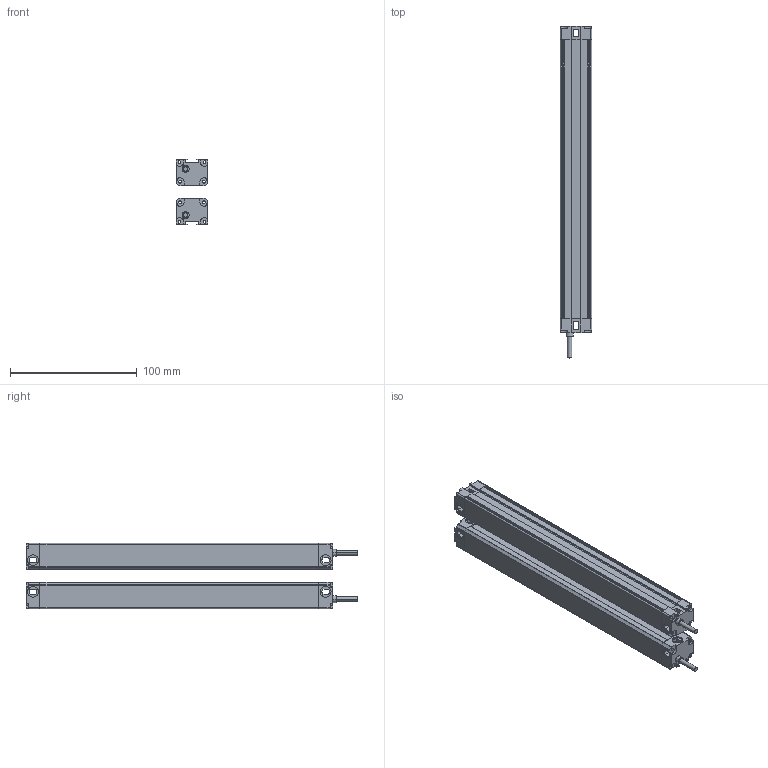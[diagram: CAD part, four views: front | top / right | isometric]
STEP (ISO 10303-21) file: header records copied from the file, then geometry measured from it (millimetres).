
FILE_DESCRIPTION (( 'STEP AP214' ), '1' );
FILE_NAME ('MTC2210.STEP', '2022-12-02T08:07:36', ( '' ), ( '' ), 'SwSTEP 2.0', 'SolidWorks 2018', '' );
FILE_SCHEMA (( 'AUTOMOTIVE_DESIGN' ));
Length unit declared in the file: millimetre
Products named in the file (5): MTC2210; 噩砃P02^MTC; P01^MTC; MTC waike^MTC; P02^MTC
Assembly tree (6 placements, depth 2):
  MTC2210
    MTC waike^MTC  x2
    P01^MTC  x2
    P02^MTC
    噩砃P02^MTC
Bounding box: 25 x 262 x 51.4 mm (x, y, z)
Volume: 86711.8 mm3; surface area: 112431.7 mm2
Topology: 8 solids, 8 shells, 480 faces, 1396 edges, 924 vertices
Faces by surface type: plane 272, cylinder 208
Entity records: 10886 total; most frequent: DIRECTION 1881, CARTESIAN_POINT 1878, ORIENTED_EDGE 1846, EDGE_CURVE 923, AXIS2_PLACEMENT_3D 637, VERTEX_POINT 610, VECTOR 607, LINE 607
